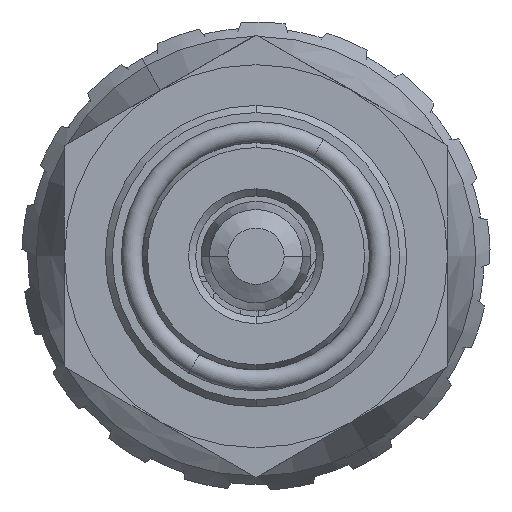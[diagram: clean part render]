
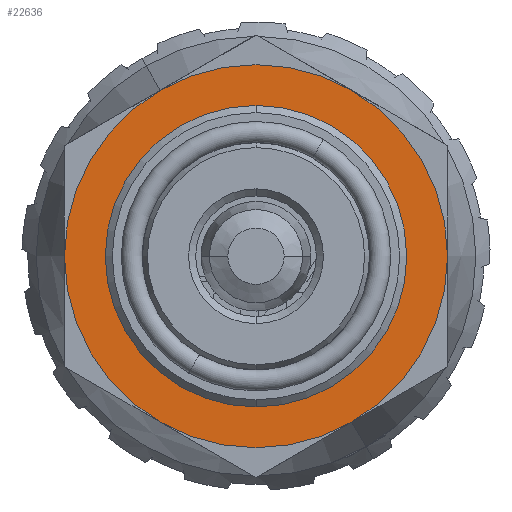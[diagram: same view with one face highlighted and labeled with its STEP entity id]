
A CAD part, front view. The second image highlights one B-rep face of the part: STEP entity #22636.
In plain terms, the highlighted planar face has unit normal (0, -1, 0).
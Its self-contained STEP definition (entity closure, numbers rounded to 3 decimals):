
#834 = FACE_OUTER_BOUND ( 'NONE', #4815, .T. ) ;
#1465 = CIRCLE ( 'NONE', #24226, 13.5 ) ;
#2890 = EDGE_CURVE ( 'NONE', #6271, #12921, #6799, .T. ) ;
#2961 = AXIS2_PLACEMENT_3D ( 'NONE', #7528, #22125, #9653 ) ;
#3611 = CARTESIAN_POINT ( 'NONE',  ( 0., -21.5, -13.5 ) ) ;
#3949 = CARTESIAN_POINT ( 'NONE',  ( 0., -21.5, -31.843 ) ) ;
#4815 = EDGE_LOOP ( 'NONE', ( #24134, #20254 ) ) ;
#4977 = CARTESIAN_POINT ( 'NONE',  ( 0., -21.5, -10. ) ) ;
#5347 = DIRECTION ( 'NONE',  ( 0., -1., 0. ) ) ;
#5620 = EDGE_LOOP ( 'NONE', ( #21935, #15146 ) ) ;
#6035 = DIRECTION ( 'NONE',  ( 0., 0., 1. ) ) ;
#6271 = VERTEX_POINT ( 'NONE', #4977 ) ;
#6319 = FACE_BOUND ( 'NONE', #5620, .T. ) ;
#6799 = CIRCLE ( 'NONE', #2961, 10. ) ;
#7113 = CARTESIAN_POINT ( 'NONE',  ( 0., -21.5, 0. ) ) ;
#7528 = CARTESIAN_POINT ( 'NONE',  ( 0., -21.5, 0. ) ) ;
#8537 = VERTEX_POINT ( 'NONE', #16206 ) ;
#9085 = AXIS2_PLACEMENT_3D ( 'NONE', #7113, #21714, #9253 ) ;
#9253 = DIRECTION ( 'NONE',  ( 0., 0., -1. ) ) ;
#9425 = CARTESIAN_POINT ( 'NONE',  ( 0., -21.5, 10. ) ) ;
#9653 = DIRECTION ( 'NONE',  ( 0., 0., -1. ) ) ;
#11582 = CARTESIAN_POINT ( 'NONE',  ( 0., -21.5, 0. ) ) ;
#12921 = VERTEX_POINT ( 'NONE', #9425 ) ;
#13340 = VERTEX_POINT ( 'NONE', #3611 ) ;
#13613 = DIRECTION ( 'NONE',  ( 0., 0., -1. ) ) ;
#15146 = ORIENTED_EDGE ( 'NONE', *, *, #2890, .F. ) ;
#16206 = CARTESIAN_POINT ( 'NONE',  ( 0., -21.5, 13.5 ) ) ;
#17246 = EDGE_CURVE ( 'NONE', #8537, #13340, #1465, .T. ) ;
#17368 = CIRCLE ( 'NONE', #9085, 13.5 ) ;
#17785 = CARTESIAN_POINT ( 'NONE',  ( 0., -21.5, 0. ) ) ;
#18394 = PLANE ( 'NONE',  #21240 ) ;
#18478 = DIRECTION ( 'NONE',  ( 0., 1., 0. ) ) ;
#18645 = AXIS2_PLACEMENT_3D ( 'NONE', #17785, #5347, #19874 ) ;
#18943 = EDGE_CURVE ( 'NONE', #12921, #6271, #20499, .T. ) ;
#19874 = DIRECTION ( 'NONE',  ( 0., 0., -1. ) ) ;
#20254 = ORIENTED_EDGE ( 'NONE', *, *, #17246, .T. ) ;
#20499 = CIRCLE ( 'NONE', #18645, 10. ) ;
#21240 = AXIS2_PLACEMENT_3D ( 'NONE', #3949, #18478, #6035 ) ;
#21714 = DIRECTION ( 'NONE',  ( 0., -1., 0. ) ) ;
#21935 = ORIENTED_EDGE ( 'NONE', *, *, #18943, .F. ) ;
#22125 = DIRECTION ( 'NONE',  ( 0., -1., 0. ) ) ;
#22636 = ADVANCED_FACE ( 'NONE', ( #6319, #834 ), #18394, .F. ) ;
#23032 = EDGE_CURVE ( 'NONE', #13340, #8537, #17368, .T. ) ;
#24134 = ORIENTED_EDGE ( 'NONE', *, *, #23032, .T. ) ;
#24226 = AXIS2_PLACEMENT_3D ( 'NONE', #11582, #26279, #13613 ) ;
#26279 = DIRECTION ( 'NONE',  ( 0., -1., 0. ) ) ;
